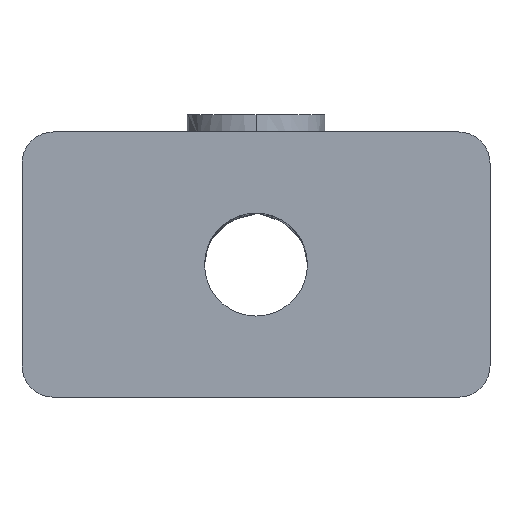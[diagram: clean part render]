
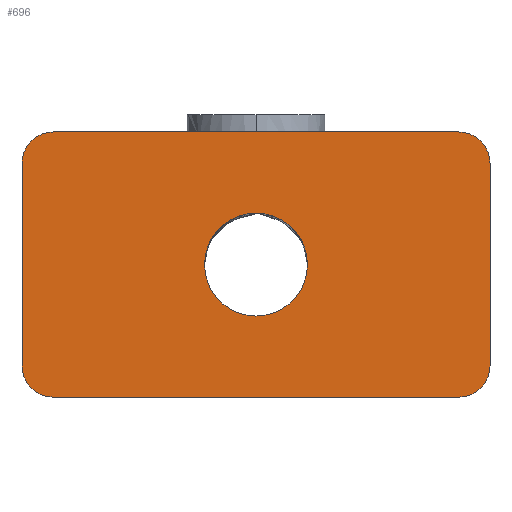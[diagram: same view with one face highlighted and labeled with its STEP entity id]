
A CAD part, front view. The second image highlights one B-rep face of the part: STEP entity #696.
In plain terms, the highlighted planar face has unit normal (0, -1, 0).
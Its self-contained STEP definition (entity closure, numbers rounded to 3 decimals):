
#16=CARTESIAN_POINT('',(-16.5,-87.0,-0.0));
#17=VERTEX_POINT('',#16);
#18=CARTESIAN_POINT('',(16.5,-87.0,-0.0));
#19=VERTEX_POINT('',#18);
#20=CARTESIAN_POINT('',(-0.0,-87.0,-0.0));
#21=DIRECTION('',(-0.0,-1.0,0.0));
#22=DIRECTION('',(0.0,-0.0,-1.0));
#23=AXIS2_PLACEMENT_3D('',#20,#21,#22);
#24=CIRCLE('',#23,16.5);
#25=EDGE_CURVE('',#17,#19,#24,.T.);
#611=CARTESIAN_POINT('',(-65.0,-87.0,-42.5));
#612=VERTEX_POINT('',#611);
#613=CARTESIAN_POINT('',(-75.0,-87.0,-32.5));
#614=VERTEX_POINT('',#613);
#615=CARTESIAN_POINT('',(-65.0,-87.0,-32.5));
#616=DIRECTION('',(0.0,1.0,-0.0));
#617=DIRECTION('',(0.0,-0.0,-1.0));
#618=AXIS2_PLACEMENT_3D('',#615,#616,#617);
#619=CIRCLE('',#618,10.0);
#620=EDGE_CURVE('',#612,#614,#619,.T.);
#621=ORIENTED_EDGE('',*,*,#620,.F.);
#622=CARTESIAN_POINT('',(65.0,-87.0,-42.5));
#623=VERTEX_POINT('',#622);
#624=CARTESIAN_POINT('',(65.0,-87.0,-42.5));
#625=DIRECTION('',(-1.0,0.0,-0.0));
#626=VECTOR('',#625,1.0);
#627=LINE('',#624,#626);
#628=EDGE_CURVE('',#623,#612,#627,.T.);
#629=ORIENTED_EDGE('',*,*,#628,.F.);
#630=CARTESIAN_POINT('',(75.0,-87.0,-32.5));
#631=VERTEX_POINT('',#630);
#632=CARTESIAN_POINT('',(65.0,-87.0,-32.5));
#633=DIRECTION('',(0.0,1.0,-0.0));
#634=DIRECTION('',(0.0,-0.0,-1.0));
#635=AXIS2_PLACEMENT_3D('',#632,#633,#634);
#636=CIRCLE('',#635,10.0);
#637=EDGE_CURVE('',#631,#623,#636,.T.);
#638=ORIENTED_EDGE('',*,*,#637,.F.);
#639=CARTESIAN_POINT('',(75.0,-87.0,32.5));
#640=VERTEX_POINT('',#639);
#641=CARTESIAN_POINT('',(75.0,-87.0,32.5));
#642=DIRECTION('',(0.0,0.0,-1.0));
#643=VECTOR('',#642,1.0);
#644=LINE('',#641,#643);
#645=EDGE_CURVE('',#640,#631,#644,.T.);
#646=ORIENTED_EDGE('',*,*,#645,.F.);
#647=CARTESIAN_POINT('',(65.0,-87.0,42.5));
#648=VERTEX_POINT('',#647);
#649=CARTESIAN_POINT('',(65.0,-87.0,32.5));
#650=DIRECTION('',(0.0,1.0,-0.0));
#651=DIRECTION('',(0.0,-0.0,-1.0));
#652=AXIS2_PLACEMENT_3D('',#649,#650,#651);
#653=CIRCLE('',#652,10.0);
#654=EDGE_CURVE('',#648,#640,#653,.T.);
#655=ORIENTED_EDGE('',*,*,#654,.F.);
#656=CARTESIAN_POINT('',(-65.0,-87.0,42.5));
#657=VERTEX_POINT('',#656);
#658=CARTESIAN_POINT('',(-65.0,-87.0,42.5));
#659=DIRECTION('',(1.0,0.0,0.0));
#660=VECTOR('',#659,1.0);
#661=LINE('',#658,#660);
#662=EDGE_CURVE('',#657,#648,#661,.T.);
#663=ORIENTED_EDGE('',*,*,#662,.F.);
#664=CARTESIAN_POINT('',(-75.0,-87.0,32.5));
#665=VERTEX_POINT('',#664);
#666=CARTESIAN_POINT('',(-65.0,-87.0,32.5));
#667=DIRECTION('',(0.0,1.0,-0.0));
#668=DIRECTION('',(0.0,-0.0,-1.0));
#669=AXIS2_PLACEMENT_3D('',#666,#667,#668);
#670=CIRCLE('',#669,10.0);
#671=EDGE_CURVE('',#665,#657,#670,.T.);
#672=ORIENTED_EDGE('',*,*,#671,.F.);
#673=CARTESIAN_POINT('',(-75.0,-87.0,-32.5));
#674=DIRECTION('',(0.0,0.0,1.0));
#675=VECTOR('',#674,1.0);
#676=LINE('',#673,#675);
#677=EDGE_CURVE('',#614,#665,#676,.T.);
#678=ORIENTED_EDGE('',*,*,#677,.F.);
#679=EDGE_LOOP('',(#621,#629,#638,#646,#655,#663,#672,#678));
#680=FACE_OUTER_BOUND('',#679,.T.);
#681=ORIENTED_EDGE('',*,*,#25,.F.);
#682=CARTESIAN_POINT('',(-0.0,-87.0,-0.0));
#683=DIRECTION('',(-0.0,-1.0,0.0));
#684=DIRECTION('',(0.0,-0.0,-1.0));
#685=AXIS2_PLACEMENT_3D('',#682,#683,#684);
#686=CIRCLE('',#685,16.5);
#687=EDGE_CURVE('',#19,#17,#686,.T.);
#688=ORIENTED_EDGE('',*,*,#687,.F.);
#689=EDGE_LOOP('',(#681,#688));
#690=FACE_BOUND('',#689,.T.);
#691=CARTESIAN_POINT('',(72.071,-87.0,-39.571));
#692=DIRECTION('',(-0.0,-1.0,0.0));
#693=DIRECTION('',(1.0,-0.0,-0.0));
#694=AXIS2_PLACEMENT_3D('',#691,#692,#693);
#695=PLANE('',#694);
#696=ADVANCED_FACE('',(#680,#690),#695,.T.);
